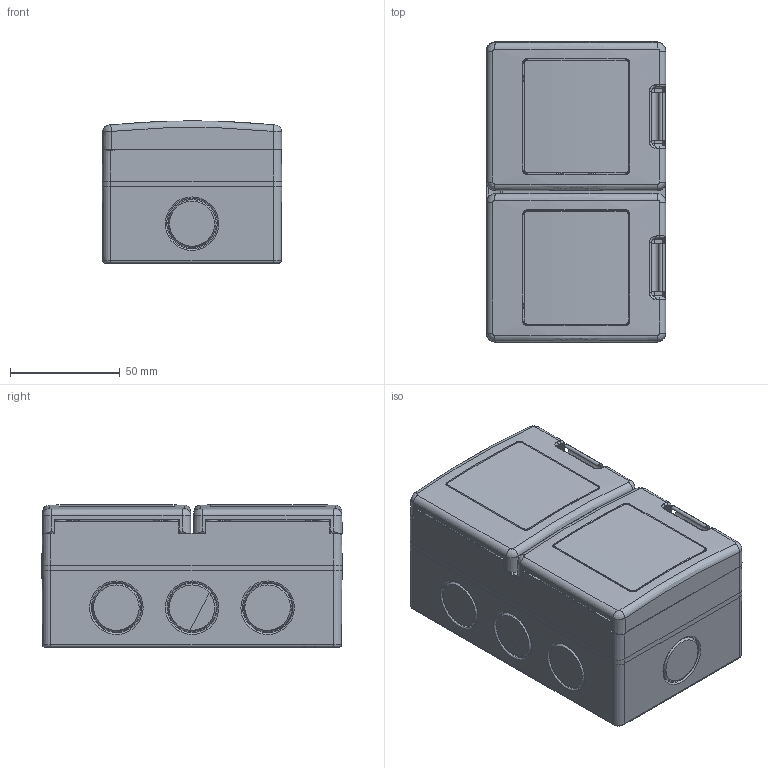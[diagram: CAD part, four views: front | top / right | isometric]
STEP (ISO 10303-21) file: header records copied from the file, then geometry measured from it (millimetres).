
FILE_DESCRIPTION(/* description */ (''),/* implementation_level */ '2;1');
FILE_NAME(/* name */ '4000493.stp',/* time_stamp */ '2016-09-21T16:47:33+02:00',/* author */ (''),/* organization */ (''),/* preprocessor_version */ 'ST-DEVELOPER v16',/* originating_system */ 'SIEMENS PLM Software NX 11.0',/* authorisation */ '');
FILE_SCHEMA (('AUTOMOTIVE_DESIGN { 1 0 10303 214 3 1 1 1 }'));
Length unit declared in the file: millimetre
Products named in the file (1): 4000493_LINKEDEXT_jt
Bounding box: 82 x 137 x 64.91 mm (x, y, z)
Surface area: 55429.4 mm2 (no closed solid volume)
Topology: 0 solids, 40 shells, 309 faces, 1122 edges, 852 vertices
Faces by surface type: plane 112, cylinder 87, bspline 52, cone 39, torus 19
Full cylindrical faces by diameter (mm): 5.1 x4, 12 x1, 23 x10
Entity records: 17417 total; most frequent: CARTESIAN_POINT 6654, DIRECTION 1859, ORIENTED_EDGE 1519, EDGE_CURVE 1080, VERTEX_POINT 843, AXIS2_PLACEMENT_3D 651, LINE 557, VECTOR 557
